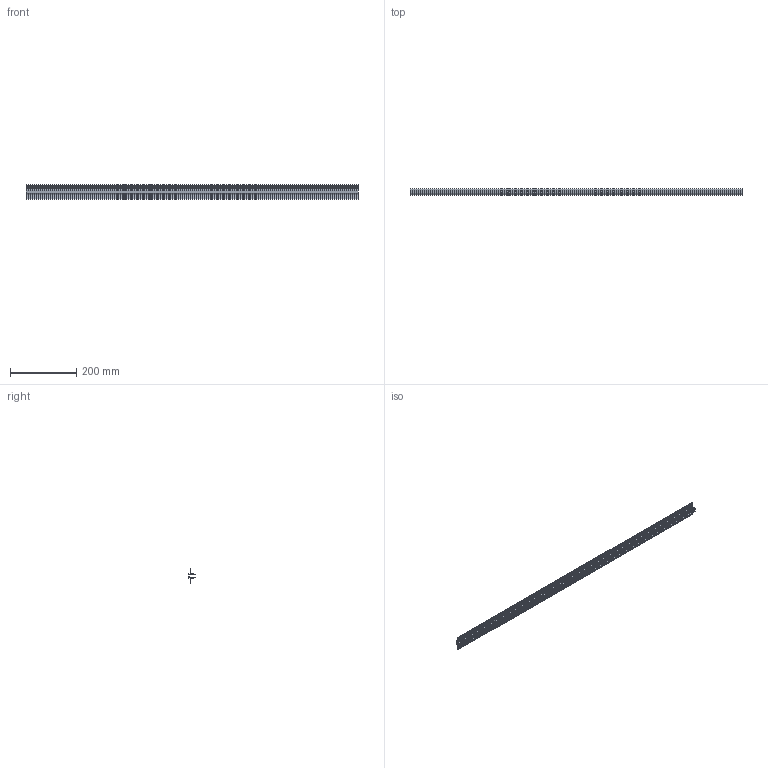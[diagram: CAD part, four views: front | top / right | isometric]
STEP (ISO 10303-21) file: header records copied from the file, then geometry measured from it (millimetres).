
FILE_DESCRIPTION((''),'2;1');
FILE_NAME('KC-0006-02-M7E-2000_ASM','2025-08-01T12:08:10',('YF-06'),(''),'CREO PARAMETRIC BY PTC INC, 2022073','CREO PARAMETRIC BY PTC INC, 2022073','');
FILE_SCHEMA(('CONFIG_CONTROL_DESIGN','SHAPE_APPEARANCE_LAYERS_GROUPS'));
Length unit declared in the file: millimetre
Products named in the file (4): KC-0006-0139; KC-0006-0137; KC-0006-0138; KC-0006-02-M7E-2000_ASM
Assembly tree (3 placements, depth 2):
  KC-0006-02-M7E-2000_ASM
    KC-0006-0139
    KC-0006-0137
    KC-0006-0138
Bounding box: 1000 x 20.7 x 44.5 mm (x, y, z)
Volume: 172663.2 mm3; surface area: 245552 mm2
Topology: 7 solids, 7 shells, 212 faces, 594 edges, 396 vertices
Faces by surface type: plane 146, cylinder 66
Entity records: 7144 total; most frequent: CARTESIAN_POINT 1209, ORIENTED_EDGE 1188, DIRECTION 1164, EDGE_CURVE 594, VECTOR 462, LINE 462, VERTEX_POINT 396, AXIS2_PLACEMENT_3D 351
